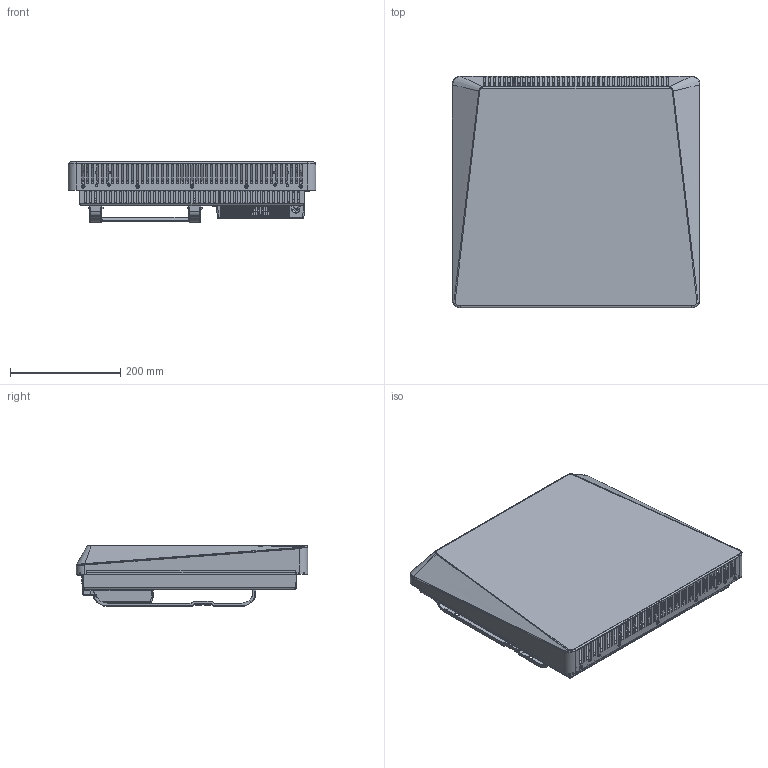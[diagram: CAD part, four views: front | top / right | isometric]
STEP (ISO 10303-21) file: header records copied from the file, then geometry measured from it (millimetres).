
FILE_DESCRIPTION(('FreeCAD Model'),'2;1');
FILE_NAME('Open CASCADE Shape Model','2026-06-11T10:03:57',(''),(''), 'Open CASCADE STEP processor 7.8','FreeCAD','Unknown');
FILE_SCHEMA(('AUTOMOTIVE_DESIGN { 1 0 10303 214 1 1 1 1 }'));
Length unit declared in the file: millimetre
Products named in the file (11): Unnamed; STE_POSTERIORE-0500W_ASM; STE_POSTERIORE_0500W; STE_GR-SCATOLA-COMANDI_ASM; STE_CORPO-SCATOLA-COMANDI; STE_SUPPORTO-PCB-COMMAND; STE_TASTIERA-ADESIVA; STE_FRONTALE_0500W; HCA10-SUPPORTO-MURALE_0500W_ASM; STE_TRAVERSA-SUPP-MURALE_0500W; HCA10-M005-GUAQIANGZHIJIA_1
Assembly tree (11 placements, depth 3):
  Unnamed
    STE_POSTERIORE-0500W_ASM
      STE_POSTERIORE_0500W
    STE_GR-SCATOLA-COMANDI_ASM
      STE_CORPO-SCATOLA-COMANDI
      STE_SUPPORTO-PCB-COMMAND
      STE_TASTIERA-ADESIVA
    STE_FRONTALE_0500W
    HCA10-SUPPORTO-MURALE_0500W_ASM
      STE_TRAVERSA-SUPP-MURALE_0500W
      HCA10-M005-GUAQIANGZHIJIA_1  x2
Bounding box: 450 x 420 x 110.5 mm (x, y, z)
Volume: 474812.6 mm3; surface area: 1173658 mm2
Topology: 8 solids, 8 shells, 3913 faces, 10853 edges, 6705 vertices
Faces by surface type: plane 2124, cylinder 1112, bspline 306, cone 177, torus 138, sphere 56
Entity records: 135595 total; most frequent: CARTESIAN_POINT 41565, ORIENTED_EDGE 20614, DIRECTION 18036, EDGE_CURVE 10307, LINE 7118, VECTOR 7118, VERTEX_POINT 6391, AXIS2_PLACEMENT_3D 5459
